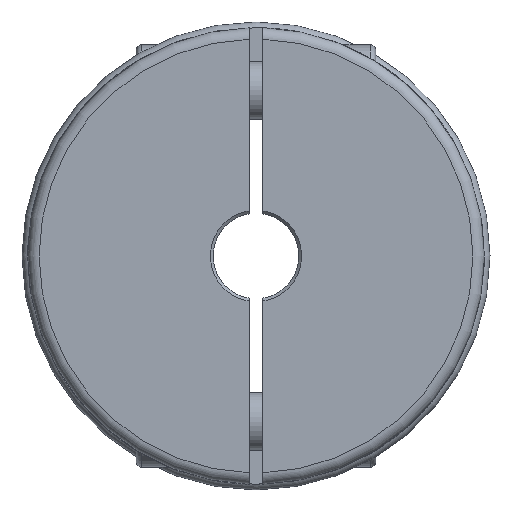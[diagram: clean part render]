
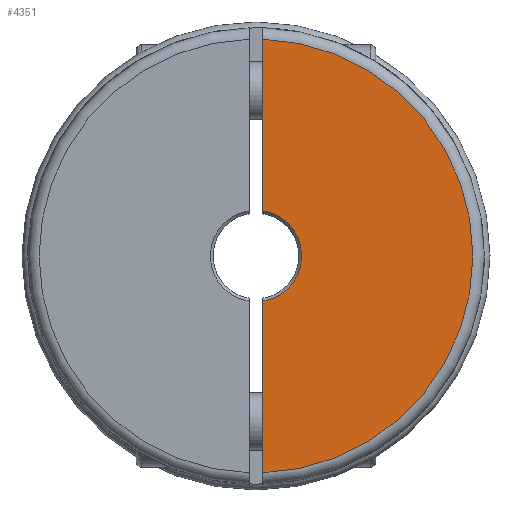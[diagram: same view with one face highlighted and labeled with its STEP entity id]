
A CAD part, left-side view. The second image highlights one B-rep face of the part: STEP entity #4351.
In plain terms, the highlighted planar face has unit normal (-1, 0, 0).
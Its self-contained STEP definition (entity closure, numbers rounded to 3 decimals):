
#98=LINE('',#7007,#242);
#107=LINE('',#7038,#251);
#242=VECTOR('',#5449,1000.);
#251=VECTOR('',#5462,1000.);
#1028=ORIENTED_EDGE('',*,*,#1490,.T.);
#1029=ORIENTED_EDGE('',*,*,#1418,.T.);
#1030=ORIENTED_EDGE('',*,*,#1478,.F.);
#1031=ORIENTED_EDGE('',*,*,#1506,.F.);
#1418=EDGE_CURVE('',#1747,#1745,#1975,.T.);
#1478=EDGE_CURVE('',#1800,#1745,#98,.T.);
#1490=EDGE_CURVE('',#1806,#1747,#107,.T.);
#1506=EDGE_CURVE('',#1806,#1800,#2016,.T.);
#1745=VERTEX_POINT('',#6589);
#1747=VERTEX_POINT('',#6592);
#1800=VERTEX_POINT('',#7008);
#1806=VERTEX_POINT('',#7039);
#1975=CIRCLE('',#4637,8.);
#2016=CIRCLE('',#4706,38.);
#2293=EDGE_LOOP('',(#1028,#1029,#1030,#1031));
#2607=FACE_BOUND('',#2293,.T.);
#2744=PLANE('',#4720);
#4351=ADVANCED_FACE('',(#2607),#2744,.F.);
#4637=AXIS2_PLACEMENT_3D('',#6591,#5331,#5332);
#4706=AXIS2_PLACEMENT_3D('',#7081,#5493,#5494);
#4720=AXIS2_PLACEMENT_3D('',#7095,#5521,#5522);
#5331=DIRECTION('',(1.,0.,0.));
#5332=DIRECTION('',(0.,0.,-1.));
#5449=DIRECTION('',(0.,0.,1.));
#5462=DIRECTION('',(0.,0.,-1.));
#5493=DIRECTION('',(1.,0.,0.));
#5494=DIRECTION('',(0.,0.,-1.));
#5521=DIRECTION('',(1.,0.,0.));
#5522=DIRECTION('',(0.,0.,-1.));
#6589=CARTESIAN_POINT('',(-122.281,-1.2,-7.909));
#6591=CARTESIAN_POINT('',(-122.281,0.,0.));
#6592=CARTESIAN_POINT('',(-122.281,-1.2,7.909));
#7007=CARTESIAN_POINT('',(-122.281,-1.2,40.));
#7008=CARTESIAN_POINT('',(-122.281,-1.2,-37.981));
#7038=CARTESIAN_POINT('',(-122.281,-1.2,40.));
#7039=CARTESIAN_POINT('',(-122.281,-1.2,37.981));
#7081=CARTESIAN_POINT('',(-122.281,0.,0.));
#7095=CARTESIAN_POINT('',(-122.281,0.,40.));
